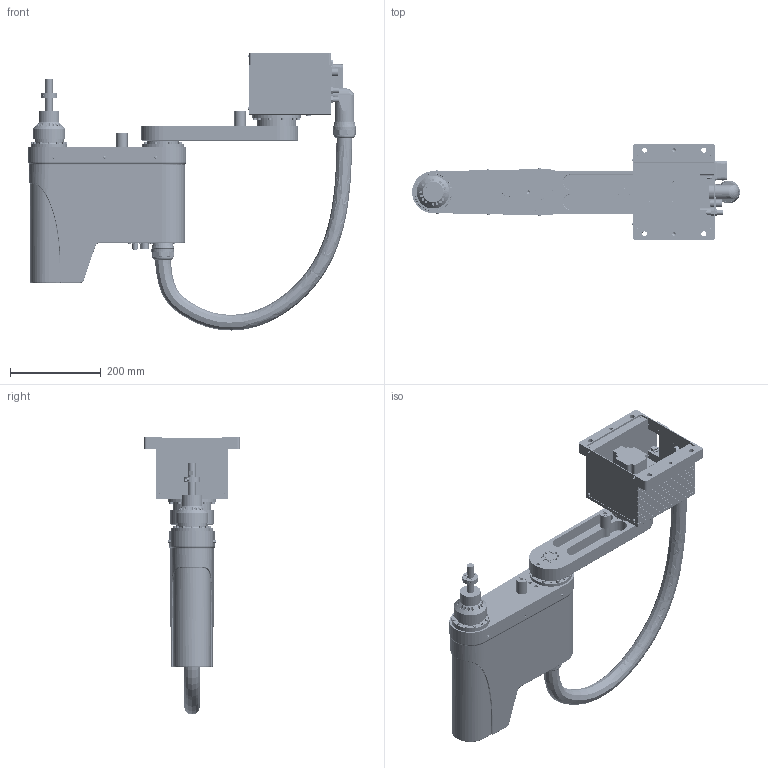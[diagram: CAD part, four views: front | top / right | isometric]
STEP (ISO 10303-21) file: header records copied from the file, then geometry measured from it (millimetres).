
FILE_DESCRIPTION (( 'STEP AP203' ), '1' );
FILE_NAME ('STH030-500F.STEP', '2017-06-07T08:34:19', ( '' ), ( '' ), 'SwSTEP 2.0', 'SolidWorks 2015', '' );
FILE_SCHEMA (( 'CONFIG_CONTROL_DESIGN' ));
Length unit declared in the file: millimetre
Products named in the file (5): 500-4; 500-3; STH030-500F; 500-2; 500-1
Assembly tree (4 placements, depth 2):
  STH030-500F
    500-1
    500-2
    500-3
    500-4
Bounding box: 720.43 x 210 x 609.17 mm (x, y, z)
Volume: 5130962.5 mm3; surface area: 1494867.6 mm2
Topology: 206 solids, 214 shells, 6156 faces, 14468 edges, 8976 vertices
Faces by surface type: cylinder 2348, plane 2210, cone 679, torus 467, bspline 452
Entity records: 194979 total; most frequent: CARTESIAN_POINT 54216, DIRECTION 29984, ORIENTED_EDGE 28264, EDGE_CURVE 14132, AXIS2_PLACEMENT_3D 11773, VERTEX_POINT 8976, EDGE_LOOP 7330, LINE 6438
